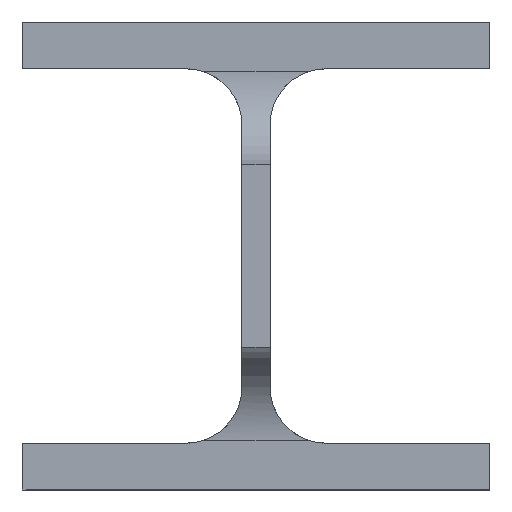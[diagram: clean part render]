
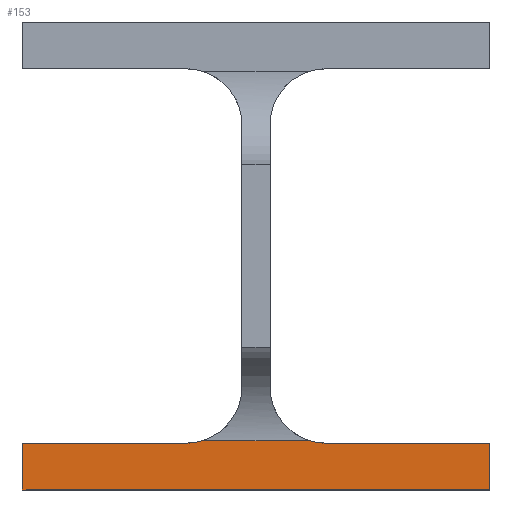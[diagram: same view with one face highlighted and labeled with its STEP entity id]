
A CAD part, front view. The second image highlights one B-rep face of the part: STEP entity #153.
In plain terms, the highlighted planar face has unit normal (0, -1, 0).
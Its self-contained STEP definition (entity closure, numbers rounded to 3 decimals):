
#6 = DIRECTION ( 'NONE',  ( -1., 0., 0. ) ) ;
#72 = ORIENTED_EDGE ( 'NONE', *, *, #248, .T. ) ;
#84 = DIRECTION ( 'NONE',  ( 1., 0., 0. ) ) ;
#95 = DIRECTION ( 'NONE',  ( 0., 0., 1. ) ) ;
#153 = ADVANCED_FACE ( 'NONE', ( #2681 ), #1137, .F. ) ;
#174 = VECTOR ( 'NONE', #1125, 1000. ) ;
#188 = VERTEX_POINT ( 'NONE', #2081 ) ;
#208 = VERTEX_POINT ( 'NONE', #2335 ) ;
#218 = EDGE_CURVE ( 'NONE', #3897, #1843, #3033, .T. ) ;
#237 = VECTOR ( 'NONE', #1612, 1000. ) ;
#248 = EDGE_CURVE ( 'NONE', #489, #208, #3993, .T. ) ;
#366 = CARTESIAN_POINT ( 'NONE',  ( 6055., 2057., 5070. ) ) ;
#405 = CARTESIAN_POINT ( 'NONE',  ( 50., 2057., 5080. ) ) ;
#489 = VERTEX_POINT ( 'NONE', #3015 ) ;
#619 = VERTEX_POINT ( 'NONE', #2649 ) ;
#678 = LINE ( 'NONE', #366, #1260 ) ;
#752 = ORIENTED_EDGE ( 'NONE', *, *, #2203, .F. ) ;
#1029 = CARTESIAN_POINT ( 'NONE',  ( -15., 2057., 5092. ) ) ;
#1073 = DIRECTION ( 'NONE',  ( -1., 0., 0. ) ) ;
#1125 = DIRECTION ( 'NONE',  ( 0., 0., -1. ) ) ;
#1137 = PLANE ( 'NONE',  #1936 ) ;
#1145 = CARTESIAN_POINT ( 'NONE',  ( -50., 2057., 5080.5 ) ) ;
#1166 = ORIENTED_EDGE ( 'NONE', *, *, #3207, .F. ) ;
#1257 = AXIS2_PLACEMENT_3D ( 'NONE', #1029, #3588, #95 ) ;
#1260 = VECTOR ( 'NONE', #1073, 1000. ) ;
#1275 = ORIENTED_EDGE ( 'NONE', *, *, #3915, .T. ) ;
#1428 = EDGE_CURVE ( 'NONE', #489, #2614, #3532, .T. ) ;
#1515 = CIRCLE ( 'NONE', #2584, 12. ) ;
#1535 = ORIENTED_EDGE ( 'NONE', *, *, #1428, .F. ) ;
#1603 = DIRECTION ( 'NONE',  ( 0., 0., 1. ) ) ;
#1612 = DIRECTION ( 'NONE',  ( 1., 0., 0. ) ) ;
#1688 = CARTESIAN_POINT ( 'NONE',  ( 6055., 2057., 5080.5 ) ) ;
#1746 = DIRECTION ( 'NONE',  ( 0., 0., -1. ) ) ;
#1803 = VECTOR ( 'NONE', #84, 1000. ) ;
#1843 = VERTEX_POINT ( 'NONE', #2502 ) ;
#1936 = AXIS2_PLACEMENT_3D ( 'NONE', #1688, #2373, #2703 ) ;
#2081 = CARTESIAN_POINT ( 'NONE',  ( 50., 2057., 5070. ) ) ;
#2104 = LINE ( 'NONE', #2470, #2984 ) ;
#2203 = EDGE_CURVE ( 'NONE', #2672, #3897, #1515, .T. ) ;
#2335 = CARTESIAN_POINT ( 'NONE',  ( -50., 2057., 5070. ) ) ;
#2373 = DIRECTION ( 'NONE',  ( 0., 1., 0. ) ) ;
#2470 = CARTESIAN_POINT ( 'NONE',  ( 50., 2057., 5070. ) ) ;
#2502 = CARTESIAN_POINT ( 'NONE',  ( 50., 2057., 5080. ) ) ;
#2584 = AXIS2_PLACEMENT_3D ( 'NONE', #3113, #3195, #1603 ) ;
#2614 = VERTEX_POINT ( 'NONE', #3970 ) ;
#2649 = CARTESIAN_POINT ( 'NONE',  ( -11.572, 2057., 5080.5 ) ) ;
#2672 = VERTEX_POINT ( 'NONE', #3337 ) ;
#2681 = FACE_OUTER_BOUND ( 'NONE', #4027, .T. ) ;
#2703 = DIRECTION ( 'NONE',  ( 0., 0., 1. ) ) ;
#2780 = ORIENTED_EDGE ( 'NONE', *, *, #3314, .F. ) ;
#2966 = ORIENTED_EDGE ( 'NONE', *, *, #3988, .F. ) ;
#2984 = VECTOR ( 'NONE', #1746, 1000. ) ;
#3015 = CARTESIAN_POINT ( 'NONE',  ( -50., 2057., 5080. ) ) ;
#3033 = LINE ( 'NONE', #405, #1803 ) ;
#3113 = CARTESIAN_POINT ( 'NONE',  ( 15., 2057., 5092. ) ) ;
#3121 = LINE ( 'NONE', #4088, #3937 ) ;
#3195 = DIRECTION ( 'NONE',  ( 0., -1., 0. ) ) ;
#3206 = CARTESIAN_POINT ( 'NONE',  ( -15., 2057., 5080. ) ) ;
#3207 = EDGE_CURVE ( 'NONE', #2614, #619, #3457, .T. ) ;
#3314 = EDGE_CURVE ( 'NONE', #1843, #188, #2104, .T. ) ;
#3337 = CARTESIAN_POINT ( 'NONE',  ( 11.572, 2057., 5080.5 ) ) ;
#3457 = CIRCLE ( 'NONE', #1257, 12. ) ;
#3485 = CARTESIAN_POINT ( 'NONE',  ( 15., 2057., 5080. ) ) ;
#3532 = LINE ( 'NONE', #3206, #237 ) ;
#3588 = DIRECTION ( 'NONE',  ( 0., -1., 0. ) ) ;
#3756 = ORIENTED_EDGE ( 'NONE', *, *, #218, .F. ) ;
#3897 = VERTEX_POINT ( 'NONE', #3485 ) ;
#3915 = EDGE_CURVE ( 'NONE', #2672, #619, #3121, .T. ) ;
#3937 = VECTOR ( 'NONE', #6, 1000. ) ;
#3970 = CARTESIAN_POINT ( 'NONE',  ( -15., 2057., 5080. ) ) ;
#3988 = EDGE_CURVE ( 'NONE', #188, #208, #678, .T. ) ;
#3993 = LINE ( 'NONE', #1145, #174 ) ;
#4027 = EDGE_LOOP ( 'NONE', ( #72, #2966, #2780, #3756, #752, #1275, #1166, #1535 ) ) ;
#4088 = CARTESIAN_POINT ( 'NONE',  ( 6055., 2057., 5080.5 ) ) ;
